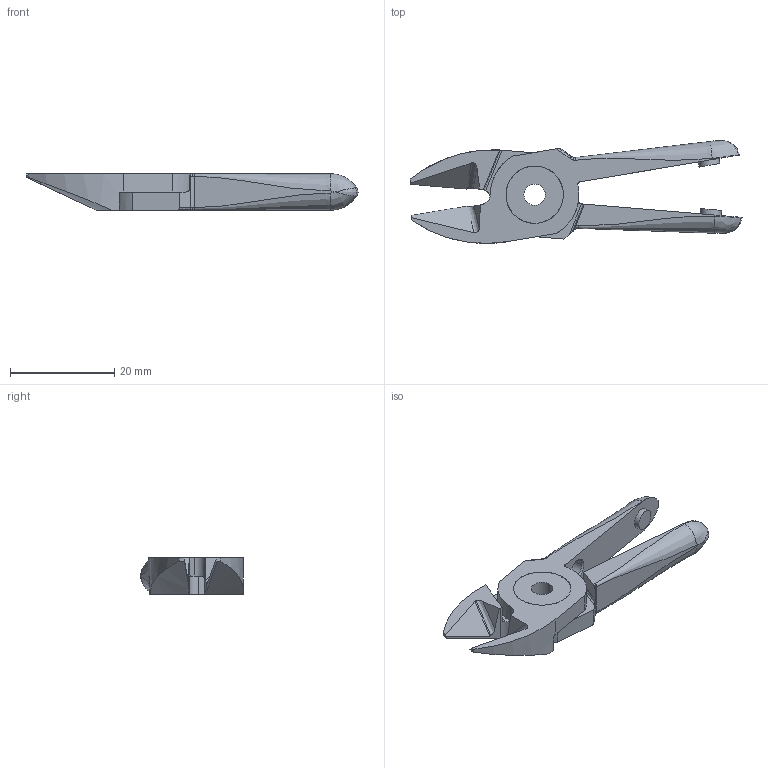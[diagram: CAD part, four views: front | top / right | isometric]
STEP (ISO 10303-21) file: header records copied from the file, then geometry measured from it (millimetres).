
FILE_DESCRIPTION (( 'STEP AP214' ), '1' );
FILE_NAME ('N3HS.STEP', '2019-11-29T01:41:02', ( '微软用户' ), ( '微软中国' ), 'SwSTEP 2.0', 'SolidWorks 2016', '' );
FILE_SCHEMA (( 'AUTOMOTIVE_DESIGN' ));
Length unit declared in the file: millimetre
Products named in the file (4): BS; BR2; BR1; N3HS
Assembly tree (3 placements, depth 2):
  N3HS
    BR1
    BR2
    BS
Bounding box: 63.69 x 19.74 x 7 mm (x, y, z)
Volume: 3791.9 mm3; surface area: 3714.9 mm2
Topology: 3 solids, 3 shells, 128 faces, 332 edges, 208 vertices
Faces by surface type: bspline 67, plane 40, cylinder 17, cone 4
Entity records: 10356 total; most frequent: CARTESIAN_POINT 7689, ORIENTED_EDGE 652, DIRECTION 346, EDGE_CURVE 326, VERTEX_POINT 208, LINE 150, VECTOR 150, EDGE_LOOP 138
